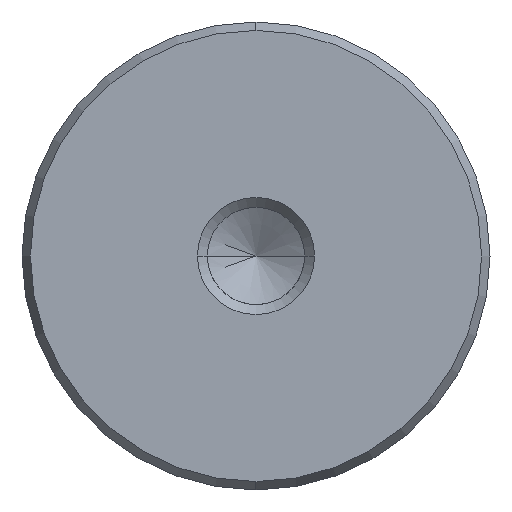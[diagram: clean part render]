
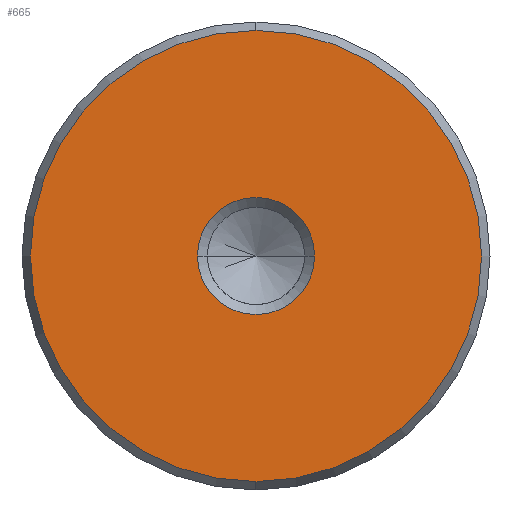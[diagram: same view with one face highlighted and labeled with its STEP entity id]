
A CAD part, left-side view. The second image highlights one B-rep face of the part: STEP entity #665.
In plain terms, the highlighted planar face has unit normal (-1, 0, 0).
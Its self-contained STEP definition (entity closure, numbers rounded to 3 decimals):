
#579=CARTESIAN_POINT('Vertex',(0.,0.,-15.423)) ;
#582=CARTESIAN_POINT('Axis2P3D Location',(0.,0.,0.)) ;
#586=CARTESIAN_POINT('Vertex',(0.,15.423,0.)) ;
#589=CARTESIAN_POINT('Axis2P3D Location',(0.,0.,0.)) ;
#593=CARTESIAN_POINT('Vertex',(0.,0.,15.423)) ;
#615=CARTESIAN_POINT('Axis2P3D Location',(0.,0.,0.)) ;
#619=CARTESIAN_POINT('Vertex',(0.,-15.423,0.)) ;
#622=CARTESIAN_POINT('Axis2P3D Location',(0.,0.,0.)) ;
#636=CARTESIAN_POINT('Axis2P3D Location',(0.,0.,0.)) ;
#647=CARTESIAN_POINT('Axis2P3D Location',(0.,0.,0.)) ;
#651=CARTESIAN_POINT('Vertex',(0.,4.,0.)) ;
#653=CARTESIAN_POINT('Vertex',(0.,-4.,0.)) ;
#656=CARTESIAN_POINT('Axis2P3D Location',(0.,0.,0.)) ;
#583=DIRECTION('Axis2P3D Direction',(1.,0.,-0.)) ;
#590=DIRECTION('Axis2P3D Direction',(1.,0.,-0.)) ;
#616=DIRECTION('Axis2P3D Direction',(1.,0.,-0.)) ;
#623=DIRECTION('Axis2P3D Direction',(1.,0.,-0.)) ;
#637=DIRECTION('Axis2P3D Direction',(1.,0.,-0.)) ;
#638=DIRECTION('Axis2P3D XDirection',(-0.,0.,-1.)) ;
#648=DIRECTION('Axis2P3D Direction',(1.,0.,-0.)) ;
#657=DIRECTION('Axis2P3D Direction',(1.,0.,-0.)) ;
#584=AXIS2_PLACEMENT_3D('Circle Axis2P3D',#582,#583,$) ;
#591=AXIS2_PLACEMENT_3D('Circle Axis2P3D',#589,#590,$) ;
#617=AXIS2_PLACEMENT_3D('Circle Axis2P3D',#615,#616,$) ;
#624=AXIS2_PLACEMENT_3D('Circle Axis2P3D',#622,#623,$) ;
#639=AXIS2_PLACEMENT_3D('Plane Axis2P3D',#636,#637,#638) ;
#649=AXIS2_PLACEMENT_3D('Circle Axis2P3D',#647,#648,$) ;
#658=AXIS2_PLACEMENT_3D('Circle Axis2P3D',#656,#657,$) ;
#642=ORIENTED_EDGE('',*,*,#588,.F.) ;
#643=ORIENTED_EDGE('',*,*,#626,.F.) ;
#644=ORIENTED_EDGE('',*,*,#621,.F.) ;
#645=ORIENTED_EDGE('',*,*,#595,.F.) ;
#662=ORIENTED_EDGE('',*,*,#655,.T.) ;
#663=ORIENTED_EDGE('',*,*,#660,.T.) ;
#664=FACE_BOUND('',#661,.T.) ;
#665=ADVANCED_FACE('720-32x140',(#646,#664),#640,.F.) ;
#585=CIRCLE('generated circle',#584,15.423) ;
#592=CIRCLE('generated circle',#591,15.423) ;
#618=CIRCLE('generated circle',#617,15.423) ;
#625=CIRCLE('generated circle',#624,15.423) ;
#650=CIRCLE('generated circle',#649,4.) ;
#659=CIRCLE('generated circle',#658,4.) ;
#588=EDGE_CURVE('',#580,#587,#585,.T.) ;
#595=EDGE_CURVE('',#587,#594,#592,.T.) ;
#621=EDGE_CURVE('',#594,#620,#618,.T.) ;
#626=EDGE_CURVE('',#620,#580,#625,.T.) ;
#655=EDGE_CURVE('',#652,#654,#650,.T.) ;
#660=EDGE_CURVE('',#654,#652,#659,.T.) ;
#641=EDGE_LOOP('',(#642,#643,#644,#645)) ;
#661=EDGE_LOOP('',(#662,#663)) ;
#646=FACE_OUTER_BOUND('',#641,.T.) ;
#640=PLANE('Plane',#639) ;
#580=VERTEX_POINT('',#579) ;
#587=VERTEX_POINT('',#586) ;
#594=VERTEX_POINT('',#593) ;
#620=VERTEX_POINT('',#619) ;
#652=VERTEX_POINT('',#651) ;
#654=VERTEX_POINT('',#653) ;
